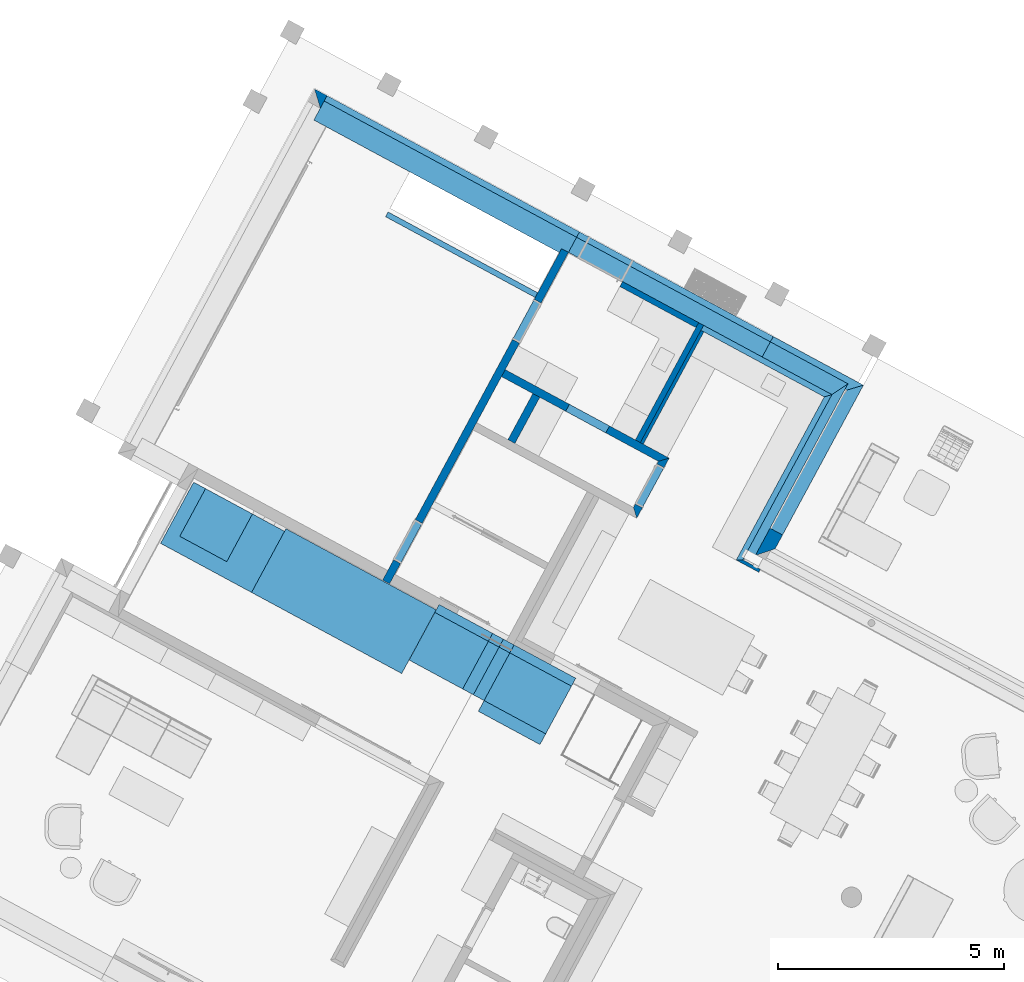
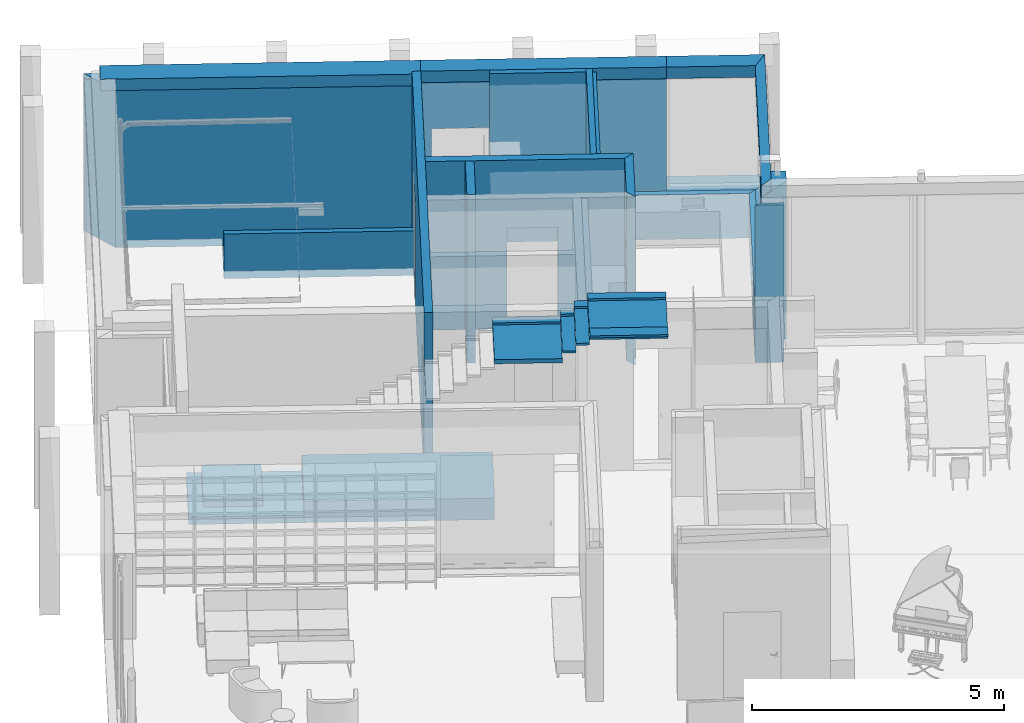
# One storey, part 4 of 36: 18 walls, 12 stairs, 7 openings.
"""IFC2X3 building model written with IfcOpenShell, lengths in metres."""

from ifc_helpers import new_model, entity, si_unit, converted_unit, derived_unit, money_unit, direction, frame, origin_with_axes, origin_2d_with_axis, place, context, subcontext, project, spatial, polyline, rectangle, outline, composite_profile, extrude, faceted_brep, material, material_list, layer, layer_set, layer_usage, type_object, element, save


model = new_model("IFC2X3")

# Units and contexts
model_context = context("Model", 3, precision=1e-05, world=origin_with_axes(), true_north=direction((0.0, 1.0)))
body_context = subcontext(model_context, "Body", "Model", "MODEL_VIEW")
ifc_project = project(units=[si_unit("LENGTHUNIT", "METRE"), si_unit("AREAUNIT", "SQUARE_METRE"), si_unit("VOLUMEUNIT", "CUBIC_METRE"), converted_unit("PLANEANGLEUNIT", "DEGREE", entity("IfcPlaneAngleMeasure", 0.0174532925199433), si_unit("PLANEANGLEUNIT", "RADIAN"), dimensions=[0, 0, 0, 0, 0, 0, 0]), money_unit("EUR"), converted_unit("TIMEUNIT", "Year", entity("IfcTimeMeasure", 31556926.0), si_unit("TIMEUNIT", "SECOND"), dimensions=[0, 0, 1, 0, 0, 0, 0]), si_unit("MASSUNIT", "GRAM", prefix="KILO"), si_unit("THERMODYNAMICTEMPERATUREUNIT", "DEGREE_CELSIUS"), si_unit("LUMINOUSINTENSITYUNIT", "LUMEN"), si_unit("ENERGYUNIT", "JOULE", prefix="MEGA"), derived_unit("THERMALCONDUCTANCEUNIT", [(si_unit("POWERUNIT", "WATT"), 1), (si_unit("LENGTHUNIT", "METRE"), -1), (si_unit("THERMODYNAMICTEMPERATUREUNIT", "KELVIN"), -1)]), derived_unit("SPECIFICHEATCAPACITYUNIT", [(si_unit("ENERGYUNIT", "JOULE"), 1), (si_unit("MASSUNIT", "GRAM", prefix="KILO"), -1), (si_unit("THERMODYNAMICTEMPERATUREUNIT", "KELVIN"), -1)]), derived_unit("MASSDENSITYUNIT", [(si_unit("MASSUNIT", "GRAM", prefix="KILO"), 1), (si_unit("VOLUMEUNIT", "CUBIC_METRE"), -1)])], contexts=[model_context])

# Site, building, storey
site_placement = place(None, frame((-3.949935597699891, 1.740105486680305, 0.0), z_axis=(0.0, 0.0, 1.0), x_axis=(0.8799804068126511, -0.475009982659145, 0.0)))
site = spatial("IfcSite", under=ifc_project, at=site_placement, Name="Gelände", CompositionType="ELEMENT")
building_placement = place(site_placement, origin_with_axes())
building = spatial("IfcBuilding", under=site, at=building_placement, Name="Gebäude", CompositionType="ELEMENT")
storey_placement = place(building_placement, origin_with_axes())
storey = spatial("IfcBuildingStorey", under=building, at=storey_placement, Name="Erdgeschoss", CompositionType="ELEMENT", Elevation=0.0)

# Wall
ifc_material_1 = material(Name="_SIWH - MW Kalksandstein")
ifc_layer_1 = layer(ifc_material_1, 0.175, ventilated="UNKNOWN")
ifc_layer_set_1 = layer_set([ifc_layer_1], Name="_SIWH - WI | KS 17,5 | 17,5cm")
ifc_layer_usage_1 = layer_usage(ifc_layer_set_1, "AXIS2", "POSITIVE", 0.0)
wall_type_1 = type_object("IfcWallType", Name="_SIWH - WI | KS 17,5 | 17,5cm 175", PredefinedType="NOTDEFINED")
wall_1_placement = place(storey_placement, frame((11.32773525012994, 15.87469521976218, -0.18), z_axis=(0.0, 0.0, 1.0), x_axis=(1.943787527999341e-06, -0.9999999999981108, 0.0)))
element("IfcWallStandardCase", 1, at=wall_1_placement, inside=storey, type_object=wall_type_1, material=ifc_layer_usage_1, Name="I-Wand026", ObjectType="NOTDEFINED", context=body_context, shape_type="SweptSolid", body=[
    extrude(outline(polyline([(0.0, 0.0), (1.161601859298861, 0.0), (1.161601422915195, 0.1749999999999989), (-4.306483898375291e-07, 0.1749999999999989), (0.0, 0.0)])), origin_with_axes(), (0.0, 0.0, 1.0), 4.080000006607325),
])

# Wall, opening
ifc_layer_usage_2 = layer_usage(ifc_layer_set_1, "AXIS2", "NEGATIVE", 0.0)
wall_2_placement = place(storey_placement, frame((14.66295449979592, 15.87470991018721, -0.18), z_axis=(0.0, 0.0, 1.0), x_axis=(-0.9999999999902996, -4.404635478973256e-06, 0.0)))
wall_2 = element("IfcWallStandardCase", 2, at=wall_2_placement, inside=storey, type_object=wall_type_1, material=ifc_layer_usage_2, Name="I-Wand003", ObjectType="NOTDEFINED", context=body_context, shape_type="SweptSolid", body=[
    extrude(outline(polyline([(5.735273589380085e-09, -0.1749999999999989), (4.125546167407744, -0.1749999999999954), (4.125546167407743, 0.0), (0.1750000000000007, 0.0), (5.735273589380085e-09, -0.1749999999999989)])), origin_with_axes(), (0.0, 0.0, 1.0), 4.080000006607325),
])
opening_1_placement = place(wall_2_placement, frame((2.005218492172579, 0.0, 0.18), z_axis=(0.0, 0.0, 1.0), x_axis=(1.0, 0.0, 0.0)))
element("IfcOpeningElement", 3, at=opening_1_placement, cuts=wall_2, Name="I-Wand063", context=body_context, shape_type="SweptSolid", body=[
    extrude(rectangle(XDim=1.010000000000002, YDim=2.26, at=origin_2d_with_axis()), frame((0.0, 0.1750000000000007, 1.13), z_axis=(0.0, 1.0, 0.0), x_axis=(-1.0, 0.0, 0.0)), (0.0, 0.0, -1.0), 0.5249999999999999),
])

# Wall, openings
ifc_layer_usage_3 = layer_usage(ifc_layer_set_1, "AXIS2", "NEGATIVE", 0.0)
wall_3_placement = place(storey_placement, frame((10.53739368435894, 19.20029480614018, -0.18), z_axis=(0.0, 0.0, 1.0), x_axis=(4.404635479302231e-06, -0.9999999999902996, 0.0)))
wall_3 = element("IfcWallStandardCase", 4, at=wall_3_placement, inside=storey, type_object=wall_type_1, material=ifc_layer_usage_3, Name="I-Wand004", ObjectType="NOTDEFINED", context=body_context, shape_type="SweptSolid", body=[
    extrude(outline(polyline([(0.1999990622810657, -0.1750000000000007), (8.542494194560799, -0.1749999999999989), (8.5424941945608, 0.0), (0.200000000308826, 0.0), (0.1999990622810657, -0.1750000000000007)])), origin_with_axes(), (0.0, 0.0, 1.0), 4.080000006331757),
])
opening_2_placement = place(wall_3_placement, frame((1.979993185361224, 0.0, 0.18), z_axis=(0.0, 0.0, 1.0), x_axis=(1.0, 0.0, 0.0)))
element("IfcOpeningElement", 5, at=opening_2_placement, cuts=wall_3, Name="I-Wand053", context=body_context, shape_type="SweptSolid", body=[
    extrude(rectangle(XDim=1.010000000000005, YDim=2.26, at=origin_2d_with_axis()), frame((0.0, 0.1750000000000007, 1.13), z_axis=(0.0, -1.0, 0.0), x_axis=(1.0, 0.0, 0.0)), (0.0, 0.0, 1.0), 0.5249999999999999),
])
opening_3_placement = place(wall_3_placement, frame((7.52493791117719, 0.0, 0.18), z_axis=(0.0, 0.0, 1.0), x_axis=(1.0, 0.0, 0.0)))
element("IfcOpeningElement", 6, at=opening_3_placement, cuts=wall_3, Name="I-Wand052", context=body_context, shape_type="SweptSolid", body=[
    extrude(rectangle(XDim=1.009999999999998, YDim=2.26, at=origin_2d_with_axis()), frame((0.0, -0.1749999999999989, 1.13), z_axis=(0.0, -1.0, 0.0), x_axis=(1.0, 0.0, 0.0)), (0.0, 0.0, -1.0), 0.5249999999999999),
])

# Wall, opening
ifc_layer_usage_4 = layer_usage(ifc_layer_set_1, "AXIS2", "POSITIVE", 0.0)
wall_4_placement = place(storey_placement, frame((14.66296043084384, 14.53810816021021, -0.18), z_axis=(0.0, 0.0, 1.0), x_axis=(-4.437408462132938e-06, 0.9999999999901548, 0.0)))
wall_4 = element("IfcWallStandardCase", 7, at=wall_4_placement, inside=storey, type_object=wall_type_1, material=ifc_layer_usage_4, Name="I-Wand032", ObjectType="NOTDEFINED", context=body_context, shape_type="SweptSolid", body=[
    extrude(outline(polyline([(0.0, 0.0), (1.511601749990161, 0.0), (1.336601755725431, 0.1750000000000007), (0.1749999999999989, 0.1750000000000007), (0.0, 0.0)])), origin_with_axes(), (0.0, 0.0, 1.0), 4.080000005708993),
])
opening_4_placement = place(wall_4_placement, frame((0.7665853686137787, 0.0, 0.18), z_axis=(0.0, 0.0, 1.0), x_axis=(1.0, 0.0, 0.0)))
element("IfcOpeningElement", 8, at=opening_4_placement, cuts=wall_4, Name="I-Wand055", context=body_context, shape_type="SweptSolid", body=[
    extrude(rectangle(XDim=1.009999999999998, YDim=2.26, at=origin_2d_with_axis()), frame((0.0, -0.1750000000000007, 1.13), z_axis=(0.0, -1.0, 0.0), x_axis=(-1.0, 0.0, 0.0)), (0.0, 0.0, -1.0), 0.5249999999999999),
])

# Walls
ifc_material_2 = material(Name="_SIWH - Beton, Stahlbeton")
ifc_layer_2 = layer(ifc_material_2, 0.12, ventilated="UNKNOWN")
ifc_layer_set_2 = layer_set([ifc_layer_2], Name="_SIWH - WI | Stb. 12 | 12cm")
ifc_layer_usage_5 = layer_usage(ifc_layer_set_2, "AXIS2", "NEGATIVE", 0.0)
wall_type_2 = type_object("IfcWallType", Name="_SIWH - WI | Stb. 12 | 12cm 120", PredefinedType="NOTDEFINED")
wall_5_placement = place(storey_placement, frame((6.597401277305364, 17.89028332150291, -0.18), z_axis=(0.0, 0.0, 1.0), x_axis=(1.0, 0.0, 0.0)))
element("IfcWallStandardCase", 9, at=wall_5_placement, inside=storey, type_object=wall_type_2, material=ifc_layer_usage_5, Name="I-Wand024", ObjectType="NOTDEFINED", context=body_context, shape_type="SweptSolid", body=[
    extrude(outline(polyline([(0.0, -0.120000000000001), (3.764998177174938, -0.120000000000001), (3.764998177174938, 0.0), (0.0, 0.0), (0.0, -0.120000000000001)])), origin_with_axes(), (0.0, 0.0, 1.0), 1.08),
])
ifc_layer_3 = layer(ifc_material_2, 0.2, ventilated="UNKNOWN")
ifc_layer_set_3 = layer_set([ifc_layer_3], Name="_SIWH - Beton, Stahlbeton 0.2")
ifc_layer_usage_6 = layer_usage(ifc_layer_set_3, "AXIS2", "NEGATIVE", 0.0)
wall_type_3 = type_object("IfcWallType", Name="_SIWH - Beton, Stahlbeton 200", PredefinedType="NOTDEFINED")
wall_6_placement = place(storey_placement, frame((17.16747696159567, 15.08304610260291, 3.620000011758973), z_axis=(0.0, 0.0, 1.0), x_axis=(0.0, 1.0, 0.0)))
element("IfcWallStandardCase", 10, at=wall_6_placement, inside=storey, type_object=wall_type_3, material=ifc_layer_usage_6, Name="A-Wand034", ObjectType="NOTDEFINED", context=body_context, shape_type="SweptSolid", body=[
    extrude(outline(polyline([(0.0, -0.1999999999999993), (4.297242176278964, -0.1999999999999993), (3.917242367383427, 0.0), (-0.2400000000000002, 0.0), (0.0, -0.1999999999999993)])), origin_with_axes(), (0.0, 0.0, 1.0), 0.2799999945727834),
])
ifc_material_3 = material(Name="_SIWH - Gipskarton")
ifc_layer_4 = layer(ifc_material_3, 0.0125, ventilated="UNKNOWN")
ifc_layer_5 = layer(ifc_material_3, 0.0125, ventilated="UNKNOWN")
ifc_material_4 = material(Name="_SIWH - Dämmung, weich Mineralwolle")
ifc_layer_6 = layer(ifc_material_4, 0.075, ventilated="UNKNOWN")
ifc_layer_7 = layer(ifc_material_3, 0.0125, ventilated="UNKNOWN")
ifc_layer_8 = layer(ifc_material_3, 0.0125, ventilated="UNKNOWN")
ifc_layer_set_4 = layer_set([ifc_layer_4, ifc_layer_5, ifc_layer_6, ifc_layer_7, ifc_layer_8], Name="_SIWH - WI | GK 2-lagig | 12,5cm")
ifc_layer_usage_7 = layer_usage(ifc_layer_set_4, "AXIS2", "NEGATIVE", 0.0)
wall_type_4 = type_object("IfcWallType", Name="_SIWH - WI | GK 2-lagig | 12,5cm 125", PredefinedType="NOTDEFINED")
wall_7_placement = place(storey_placement, frame((13.81273523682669, 15.87470568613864, -0.18), z_axis=(0.0, 0.0, 1.0), x_axis=(0.0, 1.0, 0.0)))
element("IfcWallStandardCase", 11, at=wall_7_placement, inside=storey, type_object=wall_type_4, material=ifc_layer_usage_7, Name="I-Wand043", ObjectType="NOTDEFINED", context=body_context, shape_type="SweptSolid", body=[
    extrude(outline(polyline([(0.175001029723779, -0.125), (3.125585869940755, -0.125), (3.125585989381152, 0.0), (0.1750004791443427, 0.0), (0.175001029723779, -0.125)])), origin_with_axes(), (0.0, 0.0, 1.0), 4.080000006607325),
])

# Wall, openings
ifc_material_5 = material(Name="_SIWH - MW Vormauerziegel")
ifc_layer_9 = layer(ifc_material_5, 0.115, ventilated="UNKNOWN")
ifc_material_6 = material(Name="_SIWH - Luftschicht vertikal")
ifc_layer_10 = layer(ifc_material_6, 0.02, ventilated="UNKNOWN")
ifc_layer_11 = layer(ifc_material_4, 0.18, ventilated="UNKNOWN")
ifc_layer_12 = layer(ifc_material_2, 0.2, ventilated="UNKNOWN")
ifc_layer_set_5 = layer_set([ifc_layer_9, ifc_layer_10, ifc_layer_11, ifc_layer_12], Name="_SIWH - WA | Stb. 20+WD 18+LS 2+Verblender 11,5 | 51,5cm")
ifc_layer_usage_8 = layer_usage(ifc_layer_set_5, "AXIS2", "POSITIVE", -0.315)
wall_type_5 = type_object("IfcWallType", Name="_SIWH - WA | Stb. 20+WD 18+LS 2+Verblender 11,5 | 51,5cm 515", PredefinedType="NOTDEFINED")
wall_8_placement = place(storey_placement, frame((17.3674759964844, 19.20028827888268, -0.1800000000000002), z_axis=(0.0, 0.0, 1.0), x_axis=(-0.9999999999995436, 9.555231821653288e-07, 0.0)))
wall_8 = element("IfcWallStandardCase", 12, at=wall_8_placement, inside=storey, type_object=wall_type_5, material=ifc_layer_usage_8, Name="A-Wand001", ObjectType="NOTDEFINED", context=body_context, shape_type="SweptSolid", body=[
    extrude(outline(polyline([(-0.3149983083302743, -0.3149999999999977), (6.830081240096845, -0.3149999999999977), (6.830081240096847, 0.2000000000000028), (0.1999989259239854, 0.2000000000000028), (-0.3149983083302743, -0.3149999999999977)])), origin_with_axes(), (0.0, 0.0, 1.0), 3.800000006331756),
])
opening_5_placement = place(wall_8_placement, frame((1.075006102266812, 0.0, 1.08), z_axis=(0.0, 0.0, 1.0), x_axis=(1.0, 0.0, 0.0)))
element("IfcOpeningElement", 13, at=opening_5_placement, cuts=wall_8, Name="Eckfenster-008", context=body_context, shape_type="Brep", body=[
    faceted_brep([(0.8800000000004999, 0.125, 2.720000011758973), (-0.9500067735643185, 0.1250000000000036, 2.720000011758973), (-1.390000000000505, -0.3149955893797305, 2.720000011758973), (-1.390000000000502, -0.3160065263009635, 2.720000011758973), (0.8800000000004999, -0.3160065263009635, 2.720000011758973), (0.8800000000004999, 0.2010065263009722, 2.720000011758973), (-0.8740006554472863, 0.2010065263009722, 2.720000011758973), (-0.8740006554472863, 0.2010065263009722, 0.0), (-0.9500067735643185, 0.1250000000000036, 0.0), (-1.390000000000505, -0.3149955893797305, 0.0), (-1.390000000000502, -0.3160065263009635, 0.0), (0.8800000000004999, -0.3160065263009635, 0.0), (0.8800000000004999, 0.125, 0.0), (0.8800000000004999, 0.2010065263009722, 0.0)], [[[0, 1, 2, 3, 4]], [[1, 0, 5, 6]], [[2, 1, 6, 7, 8, 9]], [[9, 10, 3, 2]], [[3, 10, 11, 4]], [[12, 0, 4, 11]], [[0, 12, 13, 5]], [[5, 13, 7, 6]], [[12, 8, 7, 13]], [[8, 12, 11, 10, 9]]]),
])
opening_6_placement = place(wall_8_placement, frame((6.037583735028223, 0.0, 0.1800000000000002), z_axis=(0.0, 0.0, 1.0), x_axis=(1.0, 0.0, 0.0)))
element("IfcOpeningElement", 14, at=opening_6_placement, cuts=wall_8, Name="Tür-017", context=body_context, shape_type="SweptSolid", body=[
    extrude(rectangle(XDim=1.134999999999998, YDim=2.5, at=origin_2d_with_axis()), frame((0.0, 0.5150000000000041, 1.25), z_axis=(0.0, -1.0, 0.0), x_axis=(1.0, 0.0, 0.0)), (0.0, 0.0, 1.0), 1.545),
])

# Wall, opening
ifc_layer_usage_9 = layer_usage(ifc_layer_set_5, "AXIS2", "NEGATIVE", 0.315)
wall_9_placement = place(storey_placement, frame((17.3674759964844, 19.20028827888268, -0.1800000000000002), z_axis=(0.0, 0.0, 1.0), x_axis=(4.414871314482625e-06, -0.9999999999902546, 0.0)))
wall_9 = element("IfcWallStandardCase", 15, at=wall_9_placement, inside=storey, type_object=wall_type_5, material=ifc_layer_usage_9, Name="A-Wand003", ObjectType="NOTDEFINED", context=body_context, shape_type="SweptSolid", body=[
    extrude(outline(polyline([(0.1999989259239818, -0.2000000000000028), (4.357241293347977, -0.2000000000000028), (3.802243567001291, 0.3150000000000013), (-0.3149983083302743, 0.3149999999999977), (0.1999989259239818, -0.2000000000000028)])), origin_with_axes(), (0.0, 0.0, 1.0), 3.8),
])
opening_7_placement = place(wall_9_placement, frame((1.825014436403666, 0.0, 1.08), z_axis=(0.0, 0.0, 1.0), x_axis=(1.0, 0.0, 0.0)))
element("IfcOpeningElement", 16, at=opening_7_placement, cuts=wall_9, Name="Eckfenster-008", context=body_context, shape_type="Brep", body=[
    faceted_brep([(-1.700015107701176, -0.125, 2.720000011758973), (1.630012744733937, -0.125, 2.720000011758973), (1.630012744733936, 0.316018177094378, 2.720000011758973), (-2.140012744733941, 0.316018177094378, 2.720000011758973), (-2.140012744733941, 0.3149999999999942, 2.720000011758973), (-1.623997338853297, -0.2010181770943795, 2.720000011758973), (1.630012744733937, -0.2010181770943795, 2.720000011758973), (1.630012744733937, -0.125, 0.0), (1.630012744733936, 0.316018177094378, 0.0), (-2.140012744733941, 0.316018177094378, 0.0), (-2.140012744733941, 0.3149999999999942, 0.0), (-1.700015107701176, -0.125, 0.0), (-1.623997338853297, -0.2010181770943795, 0.0), (1.630012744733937, -0.2010181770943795, 0.0)], [[[0, 1, 2, 3, 4]], [[1, 0, 5, 6]], [[1, 7, 8, 2]], [[2, 8, 9, 3]], [[4, 3, 9, 10]], [[4, 10, 11, 12, 5, 0]], [[12, 13, 6, 5]], [[7, 1, 6, 13]], [[7, 11, 10, 9, 8]], [[11, 7, 13, 12]]]),
])

# Walls
ifc_layer_13 = layer(ifc_material_3, 0.0125, ventilated="UNKNOWN")
ifc_layer_14 = layer(ifc_material_3, 0.0125, ventilated="UNKNOWN")
ifc_material_7 = material(Name="_SIWH - Installationswand, raumhoch")
ifc_layer_15 = layer(ifc_material_7, 0.05, ventilated="UNKNOWN")
ifc_layer_set_6 = layer_set([ifc_layer_13, ifc_layer_14, ifc_layer_15], Name="_SIWH - WI | Vorsatz-GK 2-lagig | 7,5cm")
ifc_layer_usage_10 = layer_usage(ifc_layer_set_6, "AXIS2", "POSITIVE", -0.07500000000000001)
wall_type_6 = type_object("IfcWallType", Name="_SIWH - WI | Vorsatz-GK 2-lagig | 7,5cm  75", PredefinedType="PLUMBINGWALL")
wall_10_placement = place(storey_placement, frame((13.93773523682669, 15.87470625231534, -0.1800000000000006), z_axis=(0.0, 0.0, 1.0), x_axis=(0.0, 1.0, 0.0)))
element("IfcWallStandardCase", 17, at=wall_10_placement, inside=storey, type_object=wall_type_6, material=ifc_layer_usage_10, Name="L-Wand034", ObjectType="PLUMBINGWALL", context=body_context, shape_type="SweptSolid", body=[
    extrude(outline(polyline([(0.1750007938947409, -0.07499999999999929), (3.000585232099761, -0.07499999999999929), (3.000585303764, 0.0), (0.1750004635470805, 0.0), (0.1750007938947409, -0.07499999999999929)])), origin_with_axes(), (0.0, 0.0, 1.0), 4.080000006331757),
])
ifc_layer_usage_11 = layer_usage(ifc_layer_set_6, "AXIS2", "POSITIVE", -0.07500000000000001)
wall_11_placement = place(storey_placement, frame((17.16747696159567, 14.84304610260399, -0.3200000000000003), z_axis=(0.0, 0.0, 1.0), x_axis=(1.0, 0.0, 0.0)))
element("IfcWallStandardCase", 18, at=wall_11_placement, inside=storey, type_object=wall_type_6, material=ifc_layer_usage_11, Name="L-Wand037", ObjectType="PLUMBINGWALL", context=body_context, shape_type="SweptSolid", body=[
    extrude(outline(polyline([(-0.125, -0.07499999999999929), (0.4450086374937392, -0.07499999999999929), (0.4450086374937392, 0.0), (0.0, 0.0), (-0.125, -0.07499999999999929)])), origin_with_axes(), (0.0, 0.0, 1.0), 3.806181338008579),
])
ifc_material_list = material_list([ifc_material_4, ifc_material_2, ifc_material_5, ifc_material_6])
wall_type_7 = type_object("IfcWallType", Name="_SIWH - Sturz Außenwand EG - Stb. 20cm 515 x 280", PredefinedType="NOTDEFINED")
wall_12_placement = place(storey_placement, frame((10.53639656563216, 19.20029480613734, 3.900000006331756), z_axis=(0.0, 0.0, 1.0), x_axis=(0.9999999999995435, -9.555231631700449e-07, 0.0)))
element("IfcWall", 19, at=wall_12_placement, inside=storey, type_object=wall_type_7, material=ifc_material_list, Name="A-Wand020", ObjectType="NOTDEFINED", context=body_context, shape_type="SweptSolid", body=[
    extrude(composite_profile([outline(polyline([(0.1799999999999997, -2.682212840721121e-09), (-2.980230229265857e-10, -2.682212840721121e-09), (-2.980230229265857e-10, -0.28), (0.1799999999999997, -0.28), (0.1800000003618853, -0.1999999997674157), (0.1799999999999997, -2.682212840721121e-09)])), outline(polyline([(-0.1999999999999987, 0.0), (-0.1999999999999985, -0.28), (0.0, -0.28), (0.0, 0.0), (-0.1999999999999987, 0.0)])), outline(polyline([(0.1999999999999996, -0.2), (0.1999999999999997, -0.28), (0.3149999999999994, -0.28), (0.3149999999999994, -0.2), (0.1999999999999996, -0.2)])), outline(polyline([(0.1800000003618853, -0.28), (0.1999999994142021, -0.28), (0.1999999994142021, -0.1999999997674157), (0.1800000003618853, -0.1999999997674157), (0.1800000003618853, -0.28)]))]), frame((0.0, 0.0, 0.0), z_axis=(1.0, 0.0, 0.0), x_axis=(0.0, 1.0, 0.0)), (0.0, 0.0, 1.0), 4.876073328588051),
])
ifc_layer_16 = layer(ifc_material_5, 0.115, ventilated="UNKNOWN")
ifc_layer_17 = layer(ifc_material_6, 0.02, ventilated="UNKNOWN")
ifc_layer_18 = layer(ifc_material_4, 0.18, ventilated="UNKNOWN")
ifc_layer_19 = layer(ifc_material_2, 0.3, ventilated="UNKNOWN")
ifc_layer_set_7 = layer_set([ifc_layer_16, ifc_layer_17, ifc_layer_18, ifc_layer_19], Name="_SIWH - WA | Stb. 30+WD 18+LS 2+Verblender 11,5 | 61,5")
ifc_layer_usage_12 = layer_usage(ifc_layer_set_7, "AXIS2", "POSITIVE", -0.315)
wall_type_8 = type_object("IfcWallType", Name="_SIWH - WA | Stb. 30+WD 18+LS 2+Verblender 11,5 | 61,5 615", PredefinedType="NOTDEFINED")
wall_13_placement = place(storey_placement, frame((10.53739529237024, 19.20029480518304, -0.1800000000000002), z_axis=(0.0, 0.0, 1.0), x_axis=(-0.9999999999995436, 9.555231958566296e-07, 0.0)))
element("IfcWallStandardCase", 20, at=wall_13_placement, inside=storey, type_object=wall_type_8, material=ifc_layer_usage_12, Name="A-Wand005", ObjectType="NOTDEFINED", context=body_context, shape_type="SweptSolid", body=[
    extrude(outline(polyline([(0.0, -0.3149999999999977), (6.669915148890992, -0.3149999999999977), (6.05491193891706, 0.3000000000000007), (0.0, 0.3000000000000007), (0.0, -0.3149999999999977)])), origin_with_axes(), (0.0, 0.0, 1.0), 3.800000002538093),
])
wall_type_9 = type_object("IfcWallType", Name="_SIWH - Sturz Außenwand EG Garage 615 x 280", PredefinedType="NOTDEFINED")
wall_14_placement = place(storey_placement, frame((4.182481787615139, 19.20030087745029, 3.900000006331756), z_axis=(0.0, 0.0, 1.0), x_axis=(0.9999999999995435, -9.555231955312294e-07, 0.0)))
element("IfcWall", 21, at=wall_14_placement, inside=storey, type_object=wall_type_9, material=ifc_material_list, Name="A-Wand019", ObjectType="NOTDEFINED", context=body_context, shape_type="SweptSolid", body=[
    extrude(composite_profile([outline(polyline([(0.1799999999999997, 0.0), (0.0, 0.0), (0.0, -0.28), (0.1799999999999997, -0.28), (0.1799999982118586, -0.1999999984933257), (0.1799999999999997, 0.0)])), outline(polyline([(-0.2999999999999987, 0.0), (-0.2999999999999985, -0.28), (0.0, -0.28), (0.0, 0.0), (-0.2999999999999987, 0.0)])), outline(polyline([(0.1999999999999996, -0.2), (0.1999999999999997, -0.28), (0.3149999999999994, -0.28), (0.3149999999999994, -0.2), (0.1999999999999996, -0.2)])), outline(polyline([(0.1799999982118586, -0.28), (0.1999999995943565, -0.28), (0.1999999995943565, -0.2000000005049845), (0.1799999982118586, -0.1999999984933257), (0.1799999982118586, -0.28)]))]), frame((0.0, 0.0, 0.0), z_axis=(1.0, 0.0, 0.0), x_axis=(0.0, 1.0, 0.0)), (0.0, 0.0, 1.0), 6.353914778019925),
])
ifc_layer_20 = layer(ifc_material_3, 0.0125, ventilated="UNKNOWN")
ifc_layer_21 = layer(ifc_material_3, 0.0125, ventilated="UNKNOWN")
ifc_layer_22 = layer(ifc_material_7, 0.1, ventilated="UNKNOWN")
ifc_layer_set_8 = layer_set([ifc_layer_20, ifc_layer_21, ifc_layer_22], Name="_SIWH - WI | Vorsatz-GK 2-lagig | 12,5cm")
ifc_layer_usage_13 = layer_usage(ifc_layer_set_8, "AXIS2", "POSITIVE", -0.125)
wall_type_10 = type_object("IfcWallType", Name="_SIWH - WI | Vorsatz-GK 2-lagig | 12,5cm 125", PredefinedType="PLUMBINGWALL")
wall_15_placement = place(storey_placement, frame((11.89739207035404, 19.00029350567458, -0.1800000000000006), z_axis=(0.0, 0.0, 1.0), x_axis=(0.9999999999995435, -9.555231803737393e-07, 0.0)))
element("IfcWallStandardCase", 22, at=wall_15_placement, inside=storey, type_object=wall_type_10, material=ifc_layer_usage_13, Name="L-Wand041", ObjectType="PLUMBINGWALL", context=body_context, shape_type="SweptSolid", body=[
    extrude(outline(polyline([(0.0, -0.1249999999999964), (1.915343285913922, -0.1249999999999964), (1.915343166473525, 0.0), (0.0, 0.0), (0.0, -0.1249999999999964)])), origin_with_axes(), (0.0, 0.0, 1.0), 4.080000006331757),
])
ifc_layer_usage_14 = layer_usage(ifc_layer_set_8, "AXIS2", "NEGATIVE", 0.0)
wall_16_placement = place(storey_placement, frame((13.83249488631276, 19.00029165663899, -0.1800000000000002), z_axis=(0.0, 0.0, 1.0), x_axis=(0.9999999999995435, -9.55523173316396e-07, 0.0)))
element("IfcWallStandardCase", 23, at=wall_16_placement, inside=storey, type_object=wall_type_10, material=ifc_layer_usage_14, Name="L-Wand035", ObjectType="PLUMBINGWALL", context=body_context, shape_type="SweptSolid", body=[
    extrude(outline(polyline([(0.0, -0.1249999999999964), (3.20998219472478, -0.1249999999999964), (3.33498207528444, 0.0), (0.0, 0.0), (0.0, -0.1249999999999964)])), origin_with_axes(), (0.0, 0.0, 1.0), 1.08),
])
ifc_layer_23 = layer(ifc_material_4, 0.18, ventilated="UNKNOWN")
ifc_layer_24 = layer(ifc_material_2, 0.2, ventilated="UNKNOWN")
ifc_layer_set_9 = layer_set([ifc_layer_23, ifc_layer_24], Name="_SIWH - WA | Stb. 20+WD 18 | 38cm")
ifc_layer_usage_15 = layer_usage(ifc_layer_set_9, "AXIS2", "NEGATIVE", 0.18)
wall_type_11 = type_object("IfcWallType", Name="_SIWH - WA | Stb. 20+WD 18 | 38cm 380", PredefinedType="NOTDEFINED")
wall_17_placement = place(storey_placement, frame((15.41246989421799, 19.20029014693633, 3.620000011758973), z_axis=(0.0, 0.0, 1.0), x_axis=(0.9999999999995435, -9.555231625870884e-07, 0.0)))
element("IfcWallStandardCase", 24, at=wall_17_placement, inside=storey, type_object=wall_type_11, material=ifc_layer_usage_15, Name="A-Wand021", ObjectType="NOTDEFINED", context=body_context, shape_type="SweptSolid", body=[
    extrude(outline(polyline([(0.0, -0.1999999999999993), (1.755007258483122, -0.2000000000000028), (1.955006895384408, 0.1799999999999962), (0.0, 0.1799999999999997), (0.0, -0.1999999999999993)])), origin_with_axes(), (0.0, 0.0, 1.0), 0.279999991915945),
])
ifc_material_8 = material(Name="ALLGEMEIN - BAUTEIL")
ifc_layer_25 = layer(ifc_material_8, 0.125, ventilated="UNKNOWN")
ifc_layer_set_10 = layer_set([ifc_layer_25], Name="ALLGEMEIN - BAUTEIL 0.125")
ifc_layer_usage_16 = layer_usage(ifc_layer_set_10, "AXIS2", "POSITIVE", 0.0)
wall_type_12 = type_object("IfcWallType", Name="ALLGEMEIN - BAUTEIL 125", PredefinedType="PLUMBINGWALL")
wall_18_placement = place(storey_placement, frame((17.16747696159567, 14.84304610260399, -0.3200000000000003), z_axis=(0.0, 0.0, 1.0), x_axis=(0.0, 1.0, 0.0)))
element("IfcWallStandardCase", 25, at=wall_18_placement, inside=storey, type_object=wall_type_12, material=ifc_layer_usage_16, Name="L-Wand036", ObjectType="PLUMBINGWALL", context=body_context, shape_type="SweptSolid", body=[
    extrude(outline(polyline([(0.0, 0.0), (4.157242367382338, 0.0), (4.032242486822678, 0.125), (-0.07499999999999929, 0.125), (0.0, 0.0)])), origin_with_axes(), (0.0, 0.0, 1.0), 1.22),
])

# Stairs
stair_1_placement = place(storey_placement, frame((7.937495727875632, 9.037799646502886, 0.52), z_axis=(0.0, 0.0, 1.0), x_axis=(1.0, 0.0, 0.0)))
element("IfcStair", 26, at=stair_1_placement, inside=storey, material=ifc_material_8, Name="Decke003", ShapeType="NOTDEFINED", context=body_context, shape_type="SweptSolid", body=[
    extrude(outline(polyline([(0.0, 0.0), (3.779997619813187, 1.759830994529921e-05), (3.779990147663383, 1.604984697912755), (-7.472149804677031e-06, 1.604967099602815), (0.0, 0.0)])), frame((0.0, 0.0, -0.52), z_axis=(0.0, 0.0, 1.0), x_axis=(1.0, 0.0, 0.0)), (0.0, 0.0, 1.0), 0.52),
])
ifc_material_9 = material(Name="ALLGEMEIN - NIEDRIGE PRIORITÄT")
stair_2_placement = place(storey_placement, frame((5.648260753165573, 9.03779964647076, 0.0), z_axis=(0.0, 0.0, 1.0), x_axis=(1.0, 0.0, 0.0)))
element("IfcStair", 27, at=stair_2_placement, inside=storey, material=ifc_material_9, Name="Decke031", ShapeType="NOTDEFINED", context=body_context, shape_type="SweptSolid", body=[
    extrude(outline(polyline([(0.0, 0.0), (2.289228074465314, 0.0), (2.289228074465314, 1.539974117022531), (0.0, 1.539993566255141), (0.0, 0.0)])), origin_with_axes(), (0.0, 0.0, 1.0), 0.182),
])
stair_3_placement = place(storey_placement, frame((5.948262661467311, 9.377791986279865, 0.182), z_axis=(0.0, 0.0, 1.0), x_axis=(1.0, 0.0, 0.0)))
element("IfcStair", 28, at=stair_3_placement, inside=storey, material=ifc_material_9, Name="Decke042", ShapeType="NOTDEFINED", context=body_context, shape_type="SweptSolid", body=[
    extrude(outline(polyline([(0.0, 0.0), (1.181727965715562, 0.0), (1.181727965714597, 1.199998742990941), (0.0, 1.200000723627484), (0.0, 0.0)])), origin_with_axes(), (0.0, 0.0, 1.0), 0.182),
])
stair_4_placement = place(storey_placement, frame((13.33748477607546, 9.377793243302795, 3.762), z_axis=(0.0, 0.0, 1.0), x_axis=(1.0, 0.0, 0.0)))
element("IfcStair", 29, at=stair_4_placement, inside=storey, material=ifc_material_9, Name="Decke044", ShapeType="NOTDEFINED", context=body_context, shape_type="SweptSolid", body=[
    extrude(outline(polyline([(0.0, 0.0), (-5.586768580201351e-06, 1.199999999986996), (-0.2700055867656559, 1.199998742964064), (-0.2699999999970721, -1.257022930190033e-06), (0.0, 0.0)])), origin_with_axes(), (0.0, 0.0, 1.0), 0.05000000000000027),
])
stair_5_placement = place(storey_placement, frame((13.33747825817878, 10.77779324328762, 3.762), z_axis=(0.0, 0.0, 1.0), x_axis=(1.0, 0.0, 0.0)))
element("IfcStair", 30, at=stair_5_placement, inside=storey, material=ifc_material_9, Name="Decke045", ShapeType="NOTDEFINED", context=body_context, shape_type="SweptSolid", body=[
    extrude(outline(polyline([(0.0, 0.0), (-0.2699999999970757, -1.257022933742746e-06), (-0.2699990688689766, -0.2000012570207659), (9.31128099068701e-07, -0.1999999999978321), (0.0, 0.0)])), origin_with_axes(), (0.0, 0.0, 1.0), 0.1000000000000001),
])
stair_6_placement = place(storey_placement, frame((13.60748477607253, 9.377794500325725, 3.944), z_axis=(0.0, 0.0, 1.0), x_axis=(1.0, 0.0, 0.0)))
element("IfcStair", 31, at=stair_6_placement, inside=storey, material=ifc_material_9, Name="Decke046", ShapeType="NOTDEFINED", context=body_context, shape_type="SweptSolid", body=[
    extrude(outline(polyline([(0.0, 0.0), (-5.586768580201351e-06, 1.199999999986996), (-0.2700055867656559, 1.199998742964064), (-0.2699999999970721, -1.257022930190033e-06), (0.0, 0.0)])), origin_with_axes(), (0.0, 0.0, 1.0), 0.05000000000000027),
])
stair_7_placement = place(storey_placement, frame((11.71998429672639, 9.377791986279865, 3.529999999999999), z_axis=(0.0, 0.0, 1.0), x_axis=(1.0, 0.0, 0.0)))
element("IfcStair", 32, at=stair_7_placement, inside=storey, material=ifc_material_9, Name="Decke043", ShapeType="NOTDEFINED", context=body_context, shape_type="SweptSolid", body=[
    extrude(outline(polyline([(0.0, 0.0), (1.347501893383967, 0.0), (1.347501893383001, 1.199998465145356), (0.0, 1.200000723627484), (0.0, 0.0)])), origin_with_axes(), (0.0, 0.0, 1.0), 0.1),
])
stair_8_placement = place(storey_placement, frame((13.60747825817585, 10.77779450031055, 3.944), z_axis=(0.0, 0.0, 1.0), x_axis=(1.0, 0.0, 0.0)))
element("IfcStair", 33, at=stair_8_placement, inside=storey, material=ifc_material_9, Name="Decke047", ShapeType="NOTDEFINED", context=body_context, shape_type="SweptSolid", body=[
    extrude(outline(polyline([(0.0, 0.0), (-0.2699999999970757, -1.257022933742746e-06), (-0.2699990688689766, -0.2000012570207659), (9.31128099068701e-07, -0.1999999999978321), (0.0, 0.0)])), origin_with_axes(), (0.0, 0.0, 1.0), 0.1000000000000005),
])
stair_9_placement = place(storey_placement, frame((13.60748477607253, 9.377791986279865, 4.076), z_axis=(0.0, 0.0, 1.0), x_axis=(1.0, 0.0, 0.0)))
element("IfcStair", 34, at=stair_9_placement, inside=storey, material=ifc_material_9, Name="Decke048", ShapeType="NOTDEFINED", context=body_context, shape_type="SweptSolid", body=[
    extrude(outline(polyline([(0.0, 0.0), (1.551924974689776, 0.0), (1.551924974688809, 1.19999812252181), (0.0, 1.200000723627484), (0.0, 0.0)])), origin_with_axes(), (0.0, 0.0, 1.0), 0.1),
])
stair_10_placement = place(storey_placement, frame((15.15940881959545, 10.77779867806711, 4.125999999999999), z_axis=(0.0, 0.0, 1.0), x_axis=(1.0, 0.0, 0.0)))
element("IfcStair", 35, at=stair_10_placement, inside=storey, material=ifc_material_9, Name="Decke049", ShapeType="NOTDEFINED", context=body_context, shape_type="SweptSolid", body=[
    extrude(outline(polyline([(0.0, 0.0), (-1.551924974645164, -7.22520475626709e-06), (-1.551924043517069, -0.2000072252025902), (9.31128099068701e-07, -0.1999999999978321), (0.0, 0.0)])), origin_with_axes(), (0.0, 0.0, 1.0), 0.09999999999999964),
])
stair_11_placement = place(storey_placement, frame((13.60748800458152, 9.107791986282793, 4.308000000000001), z_axis=(0.0, 0.0, 1.0), x_axis=(1.0, 0.0, 0.0)))
element("IfcStair", 36, at=stair_11_placement, inside=storey, material=ifc_material_9, Name="Decke050", ShapeType="NOTDEFINED", context=body_context, shape_type="SweptSolid", body=[
    extrude(outline(polyline([(0.0, 0.0), (1.551924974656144, 7.225204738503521e-06), (1.55192371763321, 0.270007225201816), (-1.257022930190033e-06, 0.2699999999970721), (0.0, 0.0)])), origin_with_axes(), (0.0, 0.0, 1.0), 0.04999999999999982),
])
stair_12_placement = place(storey_placement, frame((13.06748525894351, 10.77779867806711, 3.53), z_axis=(0.0, 0.0, 1.0), x_axis=(1.0, 0.0, 0.0)))
element("IfcStair", 37, at=stair_12_placement, inside=storey, material=ifc_material_9, Name="Decke051", ShapeType="NOTDEFINED", context=body_context, shape_type="SweptSolid", body=[
    extrude(outline(polyline([(0.0, 0.0), (-1.347502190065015, -6.273485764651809e-06), (-1.347501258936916, -0.200006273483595), (9.31128099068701e-07, -0.1999999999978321), (0.0, 0.0)])), origin_with_axes(), (0.0, 0.0, 1.0), 0.1499999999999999),
])

save(model, "model.ifc")
